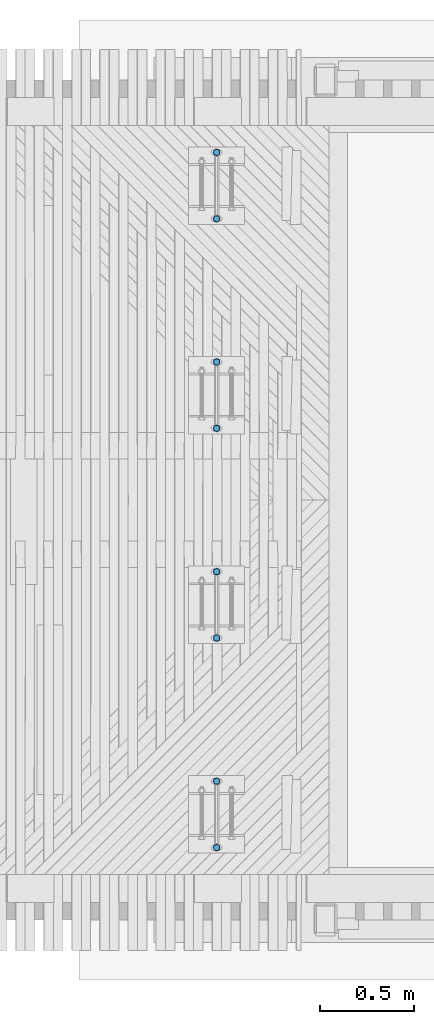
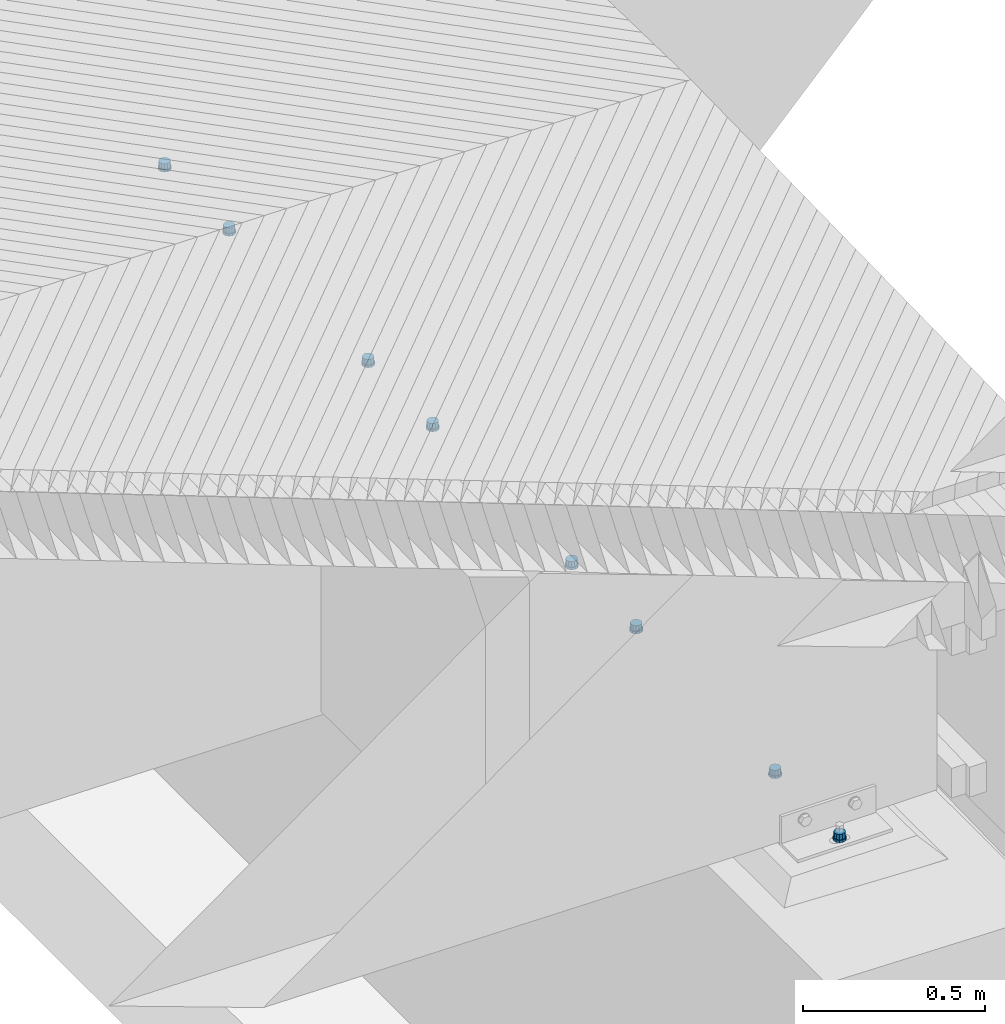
# One storey, part 12 of 47: 16 columns.
"""IFC2X3 building model written with IfcOpenShell, lengths in millimetres."""

from ifc_helpers import new_model, si_unit, frame, origin_with_axes, place, context, subcontext, project, spatial, faceted_brep, material, type_object, element, save


model = new_model("IFC2X3")

# Units and contexts
model_context = context("Model", 3, precision=1e-05, world=origin_with_axes())
body_context = subcontext(model_context, "Body", "Model", "MODEL_VIEW")
ifc_project = project(units=[si_unit("LENGTHUNIT", "METRE", prefix="MILLI"), si_unit("AREAUNIT", "SQUARE_METRE"), si_unit("VOLUMEUNIT", "CUBIC_METRE"), si_unit("MASSUNIT", "GRAM", prefix="KILO"), si_unit("TIMEUNIT", "SECOND"), si_unit("PLANEANGLEUNIT", "RADIAN"), si_unit("SOLIDANGLEUNIT", "STERADIAN"), si_unit("THERMODYNAMICTEMPERATUREUNIT", "DEGREE_CELSIUS"), si_unit("LUMINOUSINTENSITYUNIT", "LUMEN")], contexts=[model_context])

# Site, building, storey
site_placement = place(None, origin_with_axes())
site = spatial("IfcSite", under=ifc_project, at=site_placement, Name="Undefined", CompositionType="ELEMENT")
building_placement = place(site_placement, origin_with_axes())
building = spatial("IfcBuilding", under=site, at=building_placement, Name="Undefined", CompositionType="ELEMENT")
storey_placement = place(building_placement, origin_with_axes())
storey = spatial("IfcBuildingStorey", under=building, at=storey_placement, Name="Undefined", CompositionType="ELEMENT", Elevation=0.0)

# Columns
ifc_material = material(Name="STEEL/Steel_Undefined")
column_type_1 = type_object("IfcColumnType", Name="D38", PredefinedType="NOTDEFINED")
for number, where, z_axis, x_axis, name in (
    (1, (16000.0, 62747.5000000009, 2007.32999999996), (0.0, 1.0, 0.0), (0.0, 0.0, 1.0), "BEAM"),
    (2, (16000.0, 63102.5000000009, 2007.32999999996), (0.0, 1.0, 0.0), (0.0, 0.0, 1.0), "BEAM"),
    (3, (16000.0, 63867.5000000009, 1985.32999999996), (0.0, 1.0, 0.0), (0.0, 0.0, 1.0), "BEAM"),
    (4, (16000.0, 64222.5000000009, 1985.32999999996), (0.0, 1.0, 0.0), (0.0, 0.0, 1.0), "BEAM"),
    (5, (16000.0, 61982.5, 2007.32999999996), (0.0, -1.0, 0.0), (0.0, 0.0, 1.0), "BEAM"),
    (6, (16000.0, 61627.5, 2007.32999999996), (0.0, -1.0, 0.0), (0.0, 0.0, 1.0), "BEAM"),
    (7, (16000.0, 60862.5, 1985.32999999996), (0.0, -1.0, 0.0), (0.0, 0.0, 1.0), "BEAM"),
    (8, (16000.0, 60507.5, 1985.32999999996), (0.0, -1.0, 0.0), (0.0, 0.0, 1.0), "BEAM"),
):
    element("IfcColumn", number, at=place(storey_placement, frame(where, z_axis=z_axis, x_axis=x_axis)), inside=storey, type_object=column_type_1, material=ifc_material, Name=name, ObjectType="D38", context=body_context, shape_type="Brep", body=[
        faceted_brep([(0.0, -19.0, 0.0), (0.0, -16.4544826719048, -9.5), (8.0, -16.4544826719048, -9.5), (8.0, -19.0, 0.0), (0.0, -9.5, -16.4544826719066), (8.0, -9.5, -16.4544826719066), (0.0, 0.0, -19.0), (8.0, 0.0, -19.0), (0.0, 9.5, -16.4544826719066), (8.0, 9.5, -16.4544826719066), (0.0, 16.4544826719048, -9.5), (8.0, 16.4544826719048, -9.5), (0.0, 19.0, 0.0), (8.0, 19.0, 0.0), (0.0, 16.4544826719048, 9.5), (8.0, 16.4544826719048, 9.5), (0.0, 9.5, 16.4544826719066), (8.0, 9.5, 16.4544826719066), (0.0, 0.0, 19.0), (8.0, 0.0, 19.0), (0.0, -9.5, 16.4544826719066), (8.0, -9.5, 16.4544826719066), (0.0, -16.4544826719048, 9.5), (8.0, -16.4544826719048, 9.5)], [[[0, 1, 2, 3]], [[1, 4, 5, 2]], [[4, 6, 7, 5]], [[6, 8, 9, 7]], [[8, 10, 11, 9]], [[10, 12, 13, 11]], [[12, 14, 15, 13]], [[14, 16, 17, 15]], [[16, 18, 19, 17]], [[18, 20, 21, 19]], [[20, 22, 23, 21]], [[22, 0, 3, 23]], [[5, 7, 9, 11, 13, 15, 17, 19, 21, 23, 3, 2]], [[22, 20, 18, 16, 14, 12, 10, 8, 6, 4, 1, 0]]]),
    ])
column_type_2 = type_object("IfcColumnType", Name="D33", PredefinedType="NOTDEFINED")
for number, where, z_axis, x_axis, name in (
    (9, (16000.0, 62747.5000000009, 2015.32999999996), (0.0, 1.0, 0.0), (0.0, 0.0, 1.0), "BEAM"),
    (10, (16000.0, 63102.5000000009, 2015.32999999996), (0.0, 1.0, 0.0), (0.0, 0.0, 1.0), "BEAM"),
    (11, (16000.0, 63867.5000000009, 1993.32999999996), (0.0, 1.0, 0.0), (0.0, 0.0, 1.0), "BEAM"),
    (12, (16000.0, 64222.5000000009, 1993.32999999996), (0.0, 1.0, 0.0), (0.0, 0.0, 1.0), "BEAM"),
    (13, (16000.0, 61982.5, 2015.32999999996), (0.0, -1.0, 0.0), (0.0, 0.0, 1.0), "BEAM"),
    (14, (16000.0, 61627.5, 2015.32999999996), (0.0, -1.0, 0.0), (0.0, 0.0, 1.0), "BEAM"),
    (15, (16000.0, 60862.5, 1993.32999999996), (0.0, -1.0, 0.0), (0.0, 0.0, 1.0), "BEAM"),
    (16, (16000.0, 60507.5, 1993.32999999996), (0.0, -1.0, 0.0), (0.0, 0.0, 1.0), "BEAM"),
):
    element("IfcColumn", number, at=place(storey_placement, frame(where, z_axis=z_axis, x_axis=x_axis)), inside=storey, type_object=column_type_2, material=ifc_material, Name=name, ObjectType="D33", context=body_context, shape_type="Brep", body=[
        faceted_brep([(0.0, -16.5, 0.0), (0.0, -14.2894191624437, -8.25), (18.0, -14.2894191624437, -8.25), (18.0, -16.5, 0.0), (0.0, -8.25, -14.2894191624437), (18.0, -8.25, -14.2894191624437), (0.0, 0.0, -16.5), (18.0, 0.0, -16.5), (0.0, 8.25, -14.2894191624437), (18.0, 8.25, -14.2894191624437), (0.0, 14.2894191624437, -8.25), (18.0, 14.2894191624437, -8.25), (0.0, 16.5, 0.0), (18.0, 16.5, 0.0), (0.0, 14.2894191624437, 8.25), (18.0, 14.2894191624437, 8.25), (0.0, 8.25, 14.2894191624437), (18.0, 8.25, 14.2894191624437), (0.0, 0.0, 16.5), (18.0, 0.0, 16.5), (0.0, -8.25, 14.2894191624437), (18.0, -8.25, 14.2894191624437), (0.0, -14.2894191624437, 8.25), (18.0, -14.2894191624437, 8.25)], [[[0, 1, 2, 3]], [[1, 4, 5, 2]], [[4, 6, 7, 5]], [[6, 8, 9, 7]], [[8, 10, 11, 9]], [[10, 12, 13, 11]], [[12, 14, 15, 13]], [[14, 16, 17, 15]], [[16, 18, 19, 17]], [[18, 20, 21, 19]], [[20, 22, 23, 21]], [[22, 0, 3, 23]], [[5, 7, 9, 11, 13, 15, 17, 19, 21, 23, 3, 2]], [[22, 20, 18, 16, 14, 12, 10, 8, 6, 4, 1, 0]]]),
    ])

save(model, "model.ifc")
